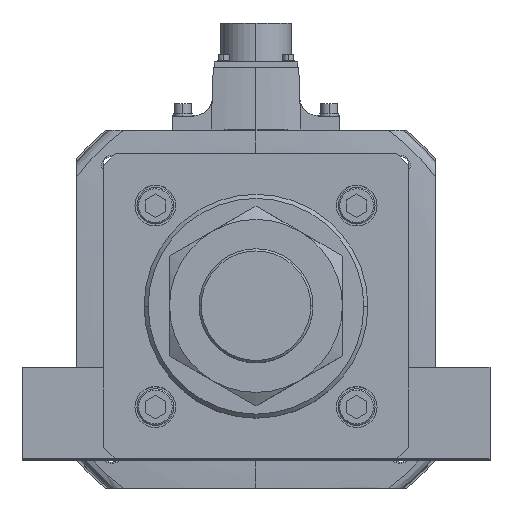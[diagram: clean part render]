
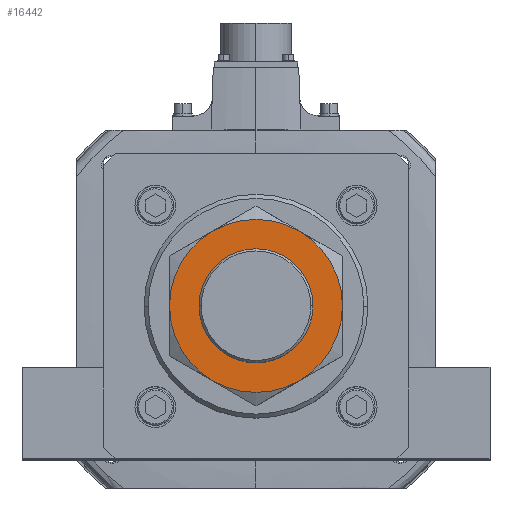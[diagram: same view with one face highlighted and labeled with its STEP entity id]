
A CAD part, top view. The second image highlights one B-rep face of the part: STEP entity #16442.
In plain terms, the highlighted planar face has unit normal (0, 0, 1).
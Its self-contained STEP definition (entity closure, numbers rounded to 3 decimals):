
#1248 = EDGE_CURVE ( 'NONE', #29810, #51820, #45216, .T. ) ;
#1893 = EDGE_LOOP ( 'NONE', ( #43704, #45134, #14559, #13044, #21304, #21646 ) ) ;
#3223 = AXIS2_PLACEMENT_3D ( 'NONE', #7525, #16341, #20637 ) ;
#3404 = AXIS2_PLACEMENT_3D ( 'NONE', #33767, #25309, #47456 ) ;
#3486 = CARTESIAN_POINT ( 'NONE',  ( 0., 0., 34. ) ) ;
#3542 = CARTESIAN_POINT ( 'NONE',  ( -42.5, 0., 34. ) ) ;
#4502 = EDGE_CURVE ( 'NONE', #20034, #9015, #54397, .T. ) ;
#4592 = CARTESIAN_POINT ( 'NONE',  ( 0., 0., 34. ) ) ;
#4782 = DIRECTION ( 'NONE',  ( 1., 0., 0. ) ) ;
#6366 = AXIS2_PLACEMENT_3D ( 'NONE', #16832, #42739, #51166 ) ;
#7089 = FACE_OUTER_BOUND ( 'NONE', #1893, .T. ) ;
#7525 = CARTESIAN_POINT ( 'NONE',  ( 0., 0., 34. ) ) ;
#8381 = ORIENTED_EDGE ( 'NONE', *, *, #4502, .F. ) ;
#8676 = VERTEX_POINT ( 'NONE', #32291 ) ;
#9015 = VERTEX_POINT ( 'NONE', #31120 ) ;
#9275 = DIRECTION ( 'NONE',  ( -1., 0., 0. ) ) ;
#9552 = DIRECTION ( 'NONE',  ( 1., 0., 0. ) ) ;
#10262 = AXIS2_PLACEMENT_3D ( 'NONE', #3486, #33397, #16470 ) ;
#12433 = CIRCLE ( 'NONE', #32620, 42.5 ) ;
#13044 = ORIENTED_EDGE ( 'NONE', *, *, #43608, .F. ) ;
#13675 = VERTEX_POINT ( 'NONE', #50193 ) ;
#13755 = DIRECTION ( 'NONE',  ( 1., 0., 0. ) ) ;
#14418 = CIRCLE ( 'NONE', #6366, 28. ) ;
#14559 = ORIENTED_EDGE ( 'NONE', *, *, #24048, .F. ) ;
#14956 = DIRECTION ( 'NONE',  ( 0., 0., -1. ) ) ;
#16278 = EDGE_LOOP ( 'NONE', ( #24796, #8381 ) ) ;
#16341 = DIRECTION ( 'NONE',  ( 0., 0., -1. ) ) ;
#16442 = ADVANCED_FACE ( 'NONE', ( #7089, #48714 ), #26063, .T. ) ;
#16470 = DIRECTION ( 'NONE',  ( 1., 0., 0. ) ) ;
#16832 = CARTESIAN_POINT ( 'NONE',  ( 0., 0., 34. ) ) ;
#17769 = CARTESIAN_POINT ( 'NONE',  ( 0., 0., 34. ) ) ;
#18043 = CARTESIAN_POINT ( 'NONE',  ( 0., 0., 34. ) ) ;
#18959 = CIRCLE ( 'NONE', #40848, 42.5 ) ;
#20034 = VERTEX_POINT ( 'NONE', #43755 ) ;
#20637 = DIRECTION ( 'NONE',  ( 1., 0., 0. ) ) ;
#20702 = CIRCLE ( 'NONE', #46415, 42.5 ) ;
#21024 = EDGE_CURVE ( 'NONE', #49760, #13675, #20702, .T. ) ;
#21304 = ORIENTED_EDGE ( 'NONE', *, *, #29728, .F. ) ;
#21646 = ORIENTED_EDGE ( 'NONE', *, *, #21024, .F. ) ;
#21986 = DIRECTION ( 'NONE',  ( 0., 0., -1. ) ) ;
#23782 = EDGE_CURVE ( 'NONE', #51820, #49760, #45379, .T. ) ;
#24048 = EDGE_CURVE ( 'NONE', #8676, #29810, #18959, .T. ) ;
#24796 = ORIENTED_EDGE ( 'NONE', *, *, #34586, .F. ) ;
#25183 = CARTESIAN_POINT ( 'NONE',  ( 21.25, 36.806, 34. ) ) ;
#25309 = DIRECTION ( 'NONE',  ( 0., 0., 1. ) ) ;
#26063 = PLANE ( 'NONE',  #3404 ) ;
#29728 = EDGE_CURVE ( 'NONE', #13675, #51892, #41263, .T. ) ;
#29810 = VERTEX_POINT ( 'NONE', #25183 ) ;
#31120 = CARTESIAN_POINT ( 'NONE',  ( -28., 0., 34. ) ) ;
#32291 = CARTESIAN_POINT ( 'NONE',  ( -21.25, 36.806, 34. ) ) ;
#32620 = AXIS2_PLACEMENT_3D ( 'NONE', #4592, #34832, #9275 ) ;
#33397 = DIRECTION ( 'NONE',  ( 0., 0., 1. ) ) ;
#33767 = CARTESIAN_POINT ( 'NONE',  ( 0., 0., 34. ) ) ;
#34586 = EDGE_CURVE ( 'NONE', #9015, #20034, #14418, .T. ) ;
#34832 = DIRECTION ( 'NONE',  ( 0., 0., -1. ) ) ;
#36055 = AXIS2_PLACEMENT_3D ( 'NONE', #17769, #14956, #9552 ) ;
#37641 = DIRECTION ( 'NONE',  ( 0., 0., -1. ) ) ;
#40848 = AXIS2_PLACEMENT_3D ( 'NONE', #52443, #47399, #4782 ) ;
#41263 = CIRCLE ( 'NONE', #36055, 42.5 ) ;
#41471 = AXIS2_PLACEMENT_3D ( 'NONE', #50403, #37641, #45716 ) ;
#42739 = DIRECTION ( 'NONE',  ( 0., 0., 1. ) ) ;
#43608 = EDGE_CURVE ( 'NONE', #51892, #8676, #12433, .T. ) ;
#43704 = ORIENTED_EDGE ( 'NONE', *, *, #23782, .F. ) ;
#43755 = CARTESIAN_POINT ( 'NONE',  ( 28., 0., 34. ) ) ;
#45134 = ORIENTED_EDGE ( 'NONE', *, *, #1248, .F. ) ;
#45216 = CIRCLE ( 'NONE', #3223, 42.5 ) ;
#45379 = CIRCLE ( 'NONE', #41471, 42.5 ) ;
#45716 = DIRECTION ( 'NONE',  ( 1., 0., 0. ) ) ;
#46415 = AXIS2_PLACEMENT_3D ( 'NONE', #18043, #21986, #13755 ) ;
#47399 = DIRECTION ( 'NONE',  ( 0., 0., -1. ) ) ;
#47456 = DIRECTION ( 'NONE',  ( 1., 0., 0. ) ) ;
#48714 = FACE_BOUND ( 'NONE', #16278, .T. ) ;
#49760 = VERTEX_POINT ( 'NONE', #53020 ) ;
#50193 = CARTESIAN_POINT ( 'NONE',  ( -21.25, -36.806, 34. ) ) ;
#50313 = CARTESIAN_POINT ( 'NONE',  ( 42.5, 0., 34. ) ) ;
#50403 = CARTESIAN_POINT ( 'NONE',  ( 0., 0., 34. ) ) ;
#51166 = DIRECTION ( 'NONE',  ( 1., 0., 0. ) ) ;
#51820 = VERTEX_POINT ( 'NONE', #50313 ) ;
#51892 = VERTEX_POINT ( 'NONE', #3542 ) ;
#52443 = CARTESIAN_POINT ( 'NONE',  ( 0., 0., 34. ) ) ;
#53020 = CARTESIAN_POINT ( 'NONE',  ( 21.25, -36.806, 34. ) ) ;
#54397 = CIRCLE ( 'NONE', #10262, 28. ) ;
